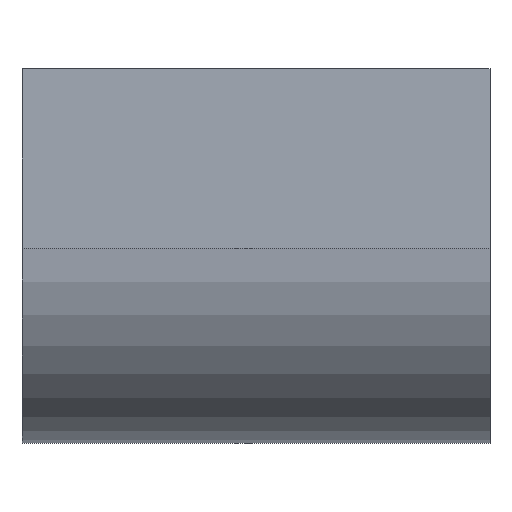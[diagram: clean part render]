
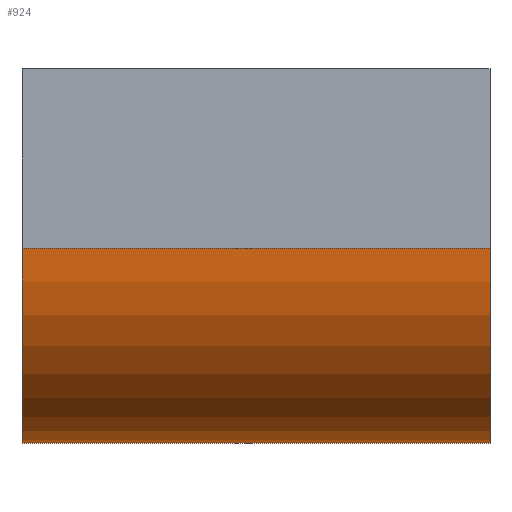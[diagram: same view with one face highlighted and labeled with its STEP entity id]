
A CAD part, front view. The second image highlights one B-rep face of the part: STEP entity #924.
In plain terms, the highlighted cylindrical face has radius 125 mm (diameter 250 mm), a partial arc.
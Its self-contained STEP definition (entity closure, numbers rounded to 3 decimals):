
#8 = CARTESIAN_POINT ( 'NONE',  ( 150., 50., -240. ) ) ;
#27 = LINE ( 'NONE', #8, #768 ) ;
#29 = EDGE_CURVE ( 'NONE', #305, #79, #1530, .T. ) ;
#69 = CARTESIAN_POINT ( 'NONE',  ( 150., -75., -115. ) ) ;
#79 = VERTEX_POINT ( 'NONE', #1256 ) ;
#134 = DIRECTION ( 'NONE',  ( 0., 0., 1. ) ) ;
#145 = DIRECTION ( 'NONE',  ( -1., 0., 0. ) ) ;
#161 = AXIS2_PLACEMENT_3D ( 'NONE', #1383, #1408, #238 ) ;
#211 = DIRECTION ( 'NONE',  ( 1., 0., 0. ) ) ;
#238 = DIRECTION ( 'NONE',  ( 0., 0., 1. ) ) ;
#264 = CYLINDRICAL_SURFACE ( 'NONE', #1061, 125. ) ;
#305 = VERTEX_POINT ( 'NONE', #69 ) ;
#357 = DIRECTION ( 'NONE',  ( 0., 0., 1. ) ) ;
#408 = CIRCLE ( 'NONE', #605, 125. ) ;
#416 = EDGE_CURVE ( 'NONE', #305, #667, #408, .T. ) ;
#459 = DIRECTION ( 'NONE',  ( -1., 0., 0. ) ) ;
#555 = ORIENTED_EDGE ( 'NONE', *, *, #29, .T. ) ;
#560 = DIRECTION ( 'NONE',  ( -1., 0., 0. ) ) ;
#605 = AXIS2_PLACEMENT_3D ( 'NONE', #1503, #211, #357 ) ;
#667 = VERTEX_POINT ( 'NONE', #1345 ) ;
#683 = CIRCLE ( 'NONE', #161, 125. ) ;
#768 = VECTOR ( 'NONE', #560, 1000. ) ;
#838 = VERTEX_POINT ( 'NONE', #859 ) ;
#859 = CARTESIAN_POINT ( 'NONE',  ( -150., 50., -240. ) ) ;
#910 = FACE_OUTER_BOUND ( 'NONE', #1424, .T. ) ;
#924 = ADVANCED_FACE ( 'NONE', ( #910 ), #264, .T. ) ;
#1010 = CARTESIAN_POINT ( 'NONE',  ( 150., -75., -115. ) ) ;
#1015 = EDGE_CURVE ( 'NONE', #79, #838, #683, .T. ) ;
#1061 = AXIS2_PLACEMENT_3D ( 'NONE', #1550, #145, #134 ) ;
#1208 = ORIENTED_EDGE ( 'NONE', *, *, #1015, .T. ) ;
#1256 = CARTESIAN_POINT ( 'NONE',  ( -150., -75., -115. ) ) ;
#1345 = CARTESIAN_POINT ( 'NONE',  ( 150., 50., -240. ) ) ;
#1359 = VECTOR ( 'NONE', #459, 1000. ) ;
#1383 = CARTESIAN_POINT ( 'NONE',  ( -150., 50., -115. ) ) ;
#1394 = ORIENTED_EDGE ( 'NONE', *, *, #416, .F. ) ;
#1408 = DIRECTION ( 'NONE',  ( 1., 0., 0. ) ) ;
#1424 = EDGE_LOOP ( 'NONE', ( #1208, #1469, #1394, #555 ) ) ;
#1469 = ORIENTED_EDGE ( 'NONE', *, *, #1638, .F. ) ;
#1503 = CARTESIAN_POINT ( 'NONE',  ( 150., 50., -115. ) ) ;
#1530 = LINE ( 'NONE', #1010, #1359 ) ;
#1550 = CARTESIAN_POINT ( 'NONE',  ( 150., 50., -115. ) ) ;
#1638 = EDGE_CURVE ( 'NONE', #667, #838, #27, .T. ) ;
